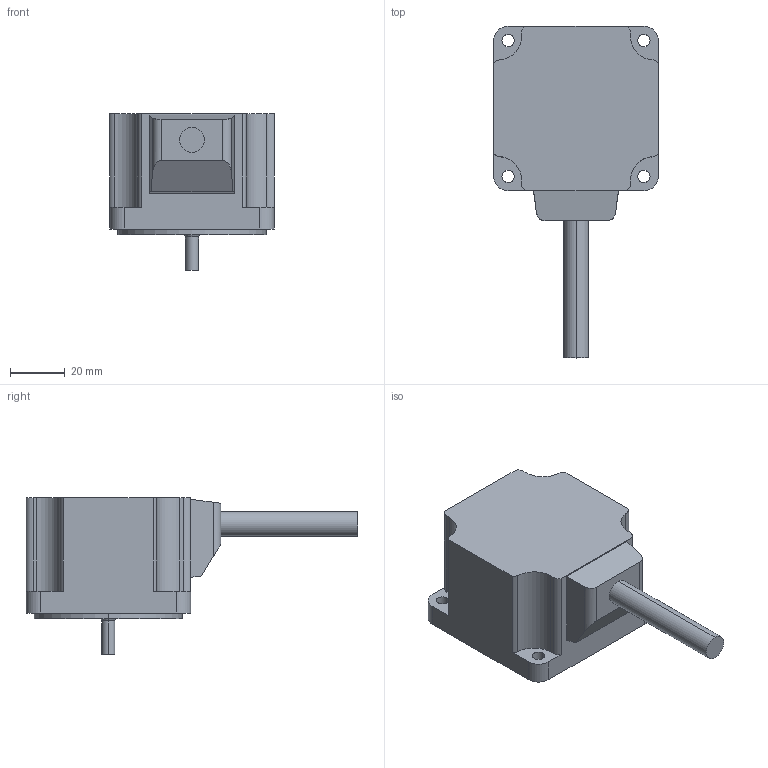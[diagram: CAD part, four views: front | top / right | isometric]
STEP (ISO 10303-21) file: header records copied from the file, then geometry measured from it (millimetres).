
FILE_DESCRIPTION (( 'STEP AP203' ), '1' );
FILE_NAME ('A1886-GF.step', '2024-04-24T07:16:19', ( '' ), ( '' ), 'SwSTEP 2.0', 'SolidWorks 2023', '' );
FILE_SCHEMA (( 'CONFIG_CONTROL_DESIGN' ));
Length unit declared in the file: millimetre
Products named in the file (1): A1886-GF
Bounding box: 60 x 121 x 57 mm (x, y, z)
Volume: 150983.7 mm3; surface area: 19559.1 mm2
Topology: 1 solids, 1 shells, 57 faces, 151 edges, 100 vertices
Faces by surface type: cylinder 32, plane 23, cone 2
Entity records: 1884 total; most frequent: DIRECTION 325, CARTESIAN_POINT 321, ORIENTED_EDGE 302, EDGE_CURVE 151, AXIS2_PLACEMENT_3D 120, VERTEX_POINT 100, VECTOR 85, LINE 85
